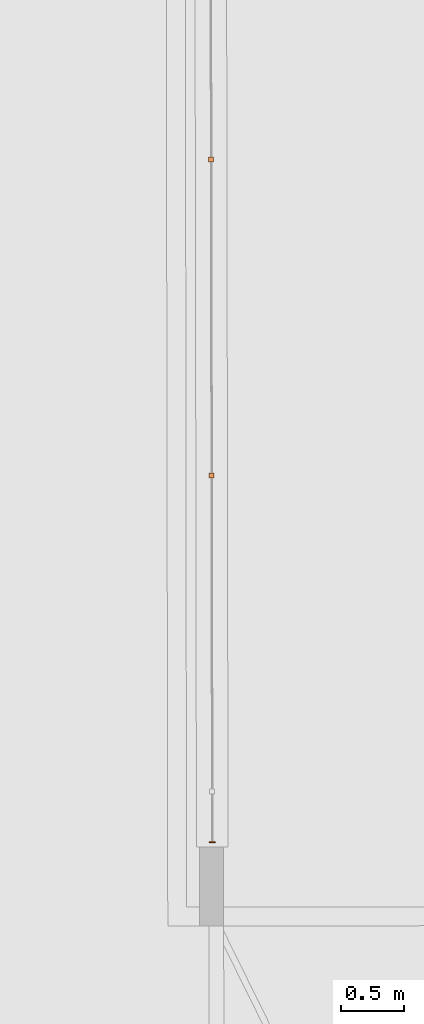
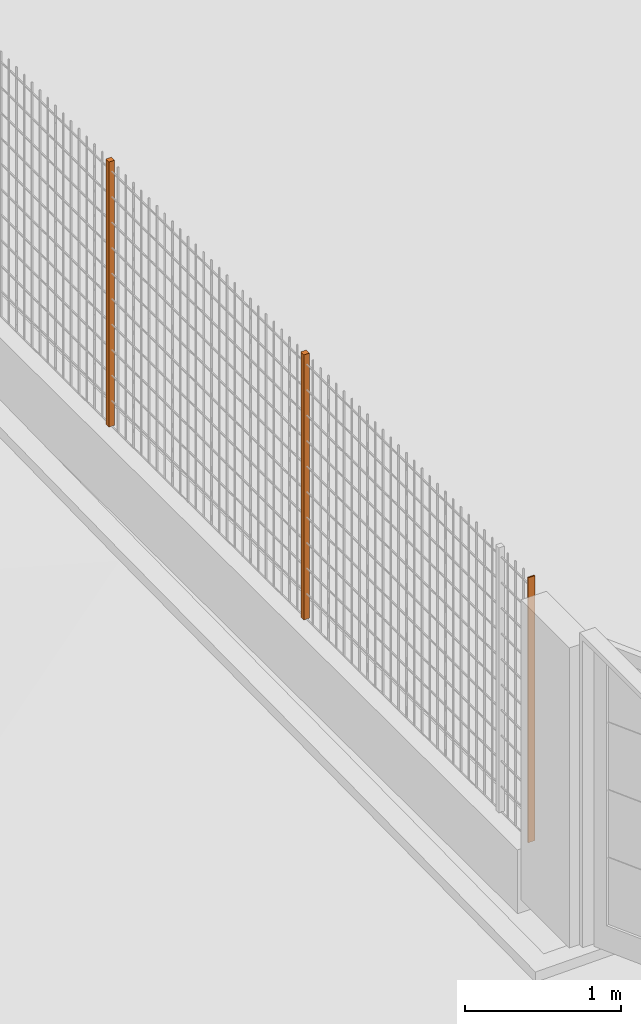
# One storey, part 34 of 1809: 3 proxies, 1 element without a shape of its own.
"""IFC2X3 building model written with IfcOpenShell, lengths in millimetres."""

from ifc_helpers import new_model, entity, si_unit, converted_unit, derived_unit, money_unit, direction, frame, origin_with_axes, place, context, subcontext, project, spatial, faceted_brep, source, transform, mapped, material, type_object, element, aggregate, save


model = new_model("IFC2X3")

# Units and contexts
model_context = context("Model", 3, precision=0.01, world=origin_with_axes(), true_north=direction((0.0, 1.0)))
body_context = subcontext(model_context, "Body", "Model", "MODEL_VIEW")
ifc_project = project(units=[si_unit("LENGTHUNIT", "METRE", prefix="MILLI"), si_unit("AREAUNIT", "SQUARE_METRE"), si_unit("VOLUMEUNIT", "CUBIC_METRE"), converted_unit("PLANEANGLEUNIT", "DEGREE", entity("IfcPlaneAngleMeasure", 0.0174532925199), si_unit("PLANEANGLEUNIT", "RADIAN"), dimensions=[0, 0, 0, 0, 0, 0, 0]), si_unit("SOLIDANGLEUNIT", "STERADIAN"), money_unit("EUR"), converted_unit("TIMEUNIT", "Year", entity("IfcTimeMeasure", 31556926.0), si_unit("TIMEUNIT", "SECOND"), dimensions=[0, 0, 1, 0, 0, 0, 0]), si_unit("MASSUNIT", "GRAM", prefix="KILO"), si_unit("THERMODYNAMICTEMPERATUREUNIT", "DEGREE_CELSIUS"), si_unit("LUMINOUSINTENSITYUNIT", "LUMEN"), si_unit("ENERGYUNIT", "JOULE", prefix="MEGA"), derived_unit("THERMALCONDUCTANCEUNIT", [(si_unit("POWERUNIT", "WATT"), 1), (si_unit("LENGTHUNIT", "METRE"), -1), (si_unit("THERMODYNAMICTEMPERATUREUNIT", "KELVIN"), -1)]), derived_unit("SPECIFICHEATCAPACITYUNIT", [(si_unit("ENERGYUNIT", "JOULE"), 1), (si_unit("MASSUNIT", "GRAM", prefix="KILO"), -1), (si_unit("THERMODYNAMICTEMPERATUREUNIT", "KELVIN"), -1)]), derived_unit("MASSDENSITYUNIT", [(si_unit("MASSUNIT", "GRAM", prefix="KILO"), 1), (si_unit("VOLUMEUNIT", "CUBIC_METRE"), -1)])], contexts=[model_context])

# Site, building, storey
site_placement = place(None, origin_with_axes())
site = spatial("IfcSite", under=ifc_project, at=site_placement, Name="Politse- ja Piirivalveameti ning Päästeameti ühishoone", CompositionType="ELEMENT")
building_placement = place(site_placement, origin_with_axes())
building = spatial("IfcBuilding", under=site, at=building_placement, Name="Politse- ja Piirivalveameti ning Päästeameti ühishoone", CompositionType="ELEMENT")
storey_placement = place(building_placement, origin_with_axes())
storey = spatial("IfcBuildingStorey", under=building, at=storey_placement, Name="Esimene korrus", CompositionType="ELEMENT", Elevation=0.0)

# Proxies
building_element_proxy_type_1 = type_object("IfcBuildingElementProxyType", Name="Railing Type", PredefinedType="NOTDEFINED")
proxy_1_placement = place(storey_placement, frame((59427.6104606, 69881.7149182, 400.0), z_axis=(0.0, 0.0, 1.0), x_axis=(1.0, 0.0, 0.0)))
proxy_1 = element("IfcBuildingElementProxy", 1, at=proxy_1_placement, inside=storey, type_object=building_element_proxy_type_1, Name="PIIRDEAED")
ifc_material_1 = material(Name="Teras - Konstruktsioon")
building_element_proxy_type_2 = type_object("IfcBuildingElementProxyType", Name="IfcBuildingElementProxy", PredefinedType="NOTDEFINED")
shared_shape_1 = source(origin_with_axes(), body_context, "Body", "Brep", [
    faceted_brep([(25.0, 5.0, 0.0), (-25.0, 5.0, 0.0), (-25.0, 4.99999999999, 2080.0), (25.0, 4.99999999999, 2080.0), (25.0, -5.0, 0.0), (-25.0, -5.0, 0.0), (-25.0, -5.00000000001, 2080.0), (25.0, -5.00000000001, 2080.0)], [[[0, 1, 2, 3]], [[0, 4, 5, 1]], [[1, 5, 6, 2]], [[3, 2, 6, 7]], [[4, 0, 3, 7]], [[5, 4, 7, 6]]]),
])
proxy_2_placement = place(proxy_1_placement, frame((225.806403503, -21575.3502544, 0.0), z_axis=(0.0, 0.0, 1.0), x_axis=(1.0, 0.0, 0.0)))
proxy_2 = element("IfcBuildingElementProxy", 2, at=proxy_2_placement, type_object=building_element_proxy_type_2, material=ifc_material_1, Name="PIIRDE POST - 001", context=body_context, shape_type="MappedRepresentation", body=[
    mapped(shared_shape_1, transform((0.0, 0.0, 0.0), x_axis=(-0.999998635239, -0.00165212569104, 0.0), y_axis=(0.00165212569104, -0.999998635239, 0.0), z_axis=(0.0, 0.0, 1.0))),
])
ifc_material_2 = material(Name="ET-03_Raud")
shared_shape_2 = source(origin_with_axes(), body_context, "Body", "Brep", [
    faceted_brep([(20.0, 20.0, 0.0), (-20.0, 20.0, 0.0), (-20.0, 20.0, 2080.0), (20.0, 20.0, 2080.0), (20.0, -20.0, 0.0), (-20.0, -20.0, 0.0), (-20.0, -20.0, 2080.0), (20.0, -20.0, 2080.0)], [[[0, 1, 2, 3]], [[0, 4, 5, 1]], [[1, 5, 6, 2]], [[3, 2, 6, 7]], [[4, 0, 3, 7]], [[5, 4, 7, 6]]]),
])
proxy_3_placement = place(proxy_1_placement, frame((221.015606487, -18675.5766454, 0.0), z_axis=(0.0, 0.0, 1.0), x_axis=(1.0, 0.0, 0.0)))
proxy_3 = element("IfcBuildingElementProxy", 3, at=proxy_3_placement, type_object=building_element_proxy_type_2, material=ifc_material_2, Name="SISEPOST - 001", context=body_context, shape_type="MappedRepresentation", body=[
    mapped(shared_shape_2, transform((0.0, 0.0, 0.0), x_axis=(-0.999998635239, -0.00165212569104, 0.0), y_axis=(0.00165212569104, -0.999998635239, 0.0), z_axis=(0.0, 0.0, 1.0))),
])
shared_shape_3 = source(origin_with_axes(), body_context, "Body", "Brep", [
    faceted_brep([(20.0, 20.0, 0.0), (-20.0, 20.0, 0.0), (-20.0, 20.0, 2080.0), (20.0, 20.0, 2080.0), (20.0, -20.0, 0.0), (-20.0, -20.0, 0.0), (-20.0, -20.0, 2080.0), (20.0, -20.0, 2080.0)], [[[0, 1, 2, 3]], [[0, 4, 5, 1]], [[1, 5, 6, 2]], [[3, 2, 6, 7]], [[4, 0, 3, 7]], [[5, 4, 7, 6]]]),
])
proxy_4_placement = place(proxy_1_placement, frame((216.88529226, -16175.5800573, 0.0), z_axis=(0.0, 0.0, 1.0), x_axis=(1.0, 0.0, 0.0)))
proxy_4 = element("IfcBuildingElementProxy", 4, at=proxy_4_placement, type_object=building_element_proxy_type_2, material=ifc_material_2, Name="SISEPOST - 001", context=body_context, shape_type="MappedRepresentation", body=[
    mapped(shared_shape_3, transform((0.0, 0.0, 0.0), x_axis=(-0.999998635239, -0.00165212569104, 0.0), y_axis=(0.00165212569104, -0.999998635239, 0.0), z_axis=(0.0, 0.0, 1.0))),
])
aggregate(proxy_1, [proxy_2, proxy_4, proxy_3])

save(model, "model.ifc")
